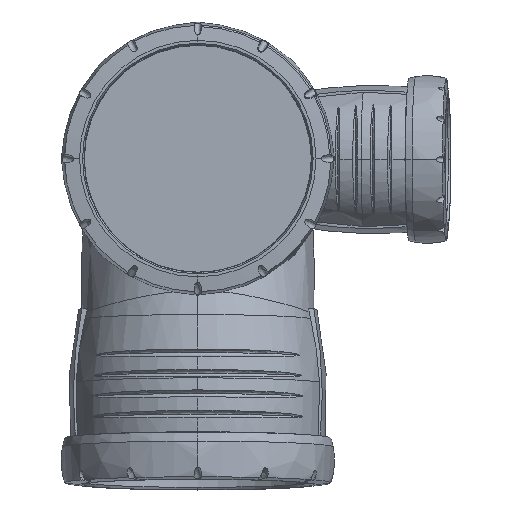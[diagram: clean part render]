
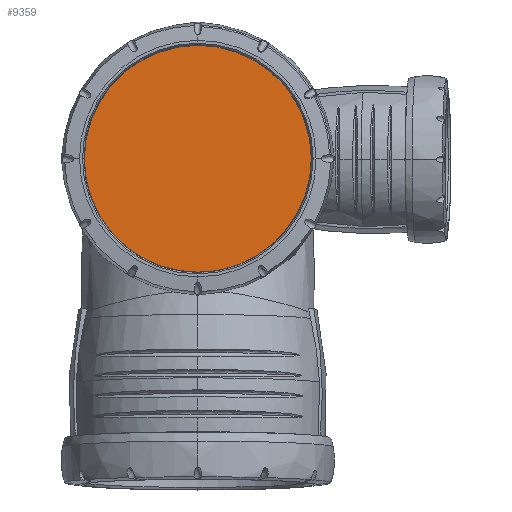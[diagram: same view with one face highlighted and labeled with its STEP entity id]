
A CAD part, top view. The second image highlights one B-rep face of the part: STEP entity #9359.
In plain terms, the highlighted planar face has unit normal (0, 0, 1).
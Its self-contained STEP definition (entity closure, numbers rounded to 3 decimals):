
#271=PLANE('',#10177);
#1268=CIRCLE('',#10167,45.45);
#1269=CIRCLE('',#10169,45.45);
#1270=CIRCLE('',#10171,45.45);
#1271=CIRCLE('',#10173,45.45);
#1806=FACE_OUTER_BOUND('',#2340,.T.);
#2340=EDGE_LOOP('',(#7998,#7999,#8000,#8001));
#3821=VERTEX_POINT('',#32291);
#3822=VERTEX_POINT('',#32293);
#3823=VERTEX_POINT('',#32297);
#3824=VERTEX_POINT('',#32301);
#5205=EDGE_CURVE('',#3821,#3822,#1268,.T.);
#5207=EDGE_CURVE('',#3822,#3823,#1269,.T.);
#5209=EDGE_CURVE('',#3823,#3824,#1270,.T.);
#5211=EDGE_CURVE('',#3824,#3821,#1271,.T.);
#7998=ORIENTED_EDGE('',*,*,#5209,.F.);
#7999=ORIENTED_EDGE('',*,*,#5207,.F.);
#8000=ORIENTED_EDGE('',*,*,#5205,.F.);
#8001=ORIENTED_EDGE('',*,*,#5211,.F.);
#9359=ADVANCED_FACE('',(#1806),#271,.T.);
#10167=AXIS2_PLACEMENT_3D('',#32294,#12000,#12001);
#10169=AXIS2_PLACEMENT_3D('',#32298,#12005,#12006);
#10171=AXIS2_PLACEMENT_3D('',#32302,#12010,#12011);
#10173=AXIS2_PLACEMENT_3D('',#32305,#12015,#12016);
#10177=AXIS2_PLACEMENT_3D('',#32397,#12025,#12026);
#12000=DIRECTION('center_axis',(0.,0.,
-1.));
#12001=DIRECTION('ref_axis',(1.,0.,0.));
#12005=DIRECTION('center_axis',(0.,0.,
-1.));
#12006=DIRECTION('ref_axis',(-0.594,-0.804,0.));
#12010=DIRECTION('center_axis',(0.,0.,
-1.));
#12011=DIRECTION('ref_axis',(-1.,0.,
0.));
#12015=DIRECTION('center_axis',(0.,0.,
-1.));
#12016=DIRECTION('ref_axis',(0.524,0.852,0.));
#12025=DIRECTION('center_axis',(0.,0.,
1.));
#12026=DIRECTION('ref_axis',(-0.187,-0.982,0.));
#32291=CARTESIAN_POINT('',(45.45,0.,248.));
#32293=CARTESIAN_POINT('',(0.,-45.45,248.));
#32294=CARTESIAN_POINT('Origin',(0.,0.,
248.));
#32297=CARTESIAN_POINT('',(-45.45,0.,248.));
#32298=CARTESIAN_POINT('Origin',(0.,0.,
248.));
#32301=CARTESIAN_POINT('',(0.,45.45,248.));
#32302=CARTESIAN_POINT('Origin',(0.,0.,
248.));
#32305=CARTESIAN_POINT('Origin',(0.,0.,
248.));
#32397=CARTESIAN_POINT('Origin',(-36.396,53.503,248.));
